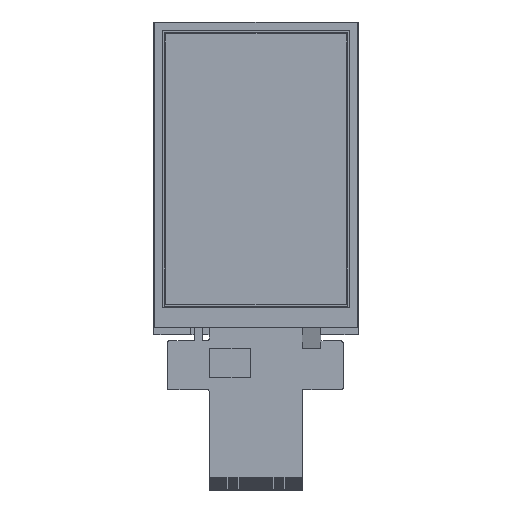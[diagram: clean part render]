
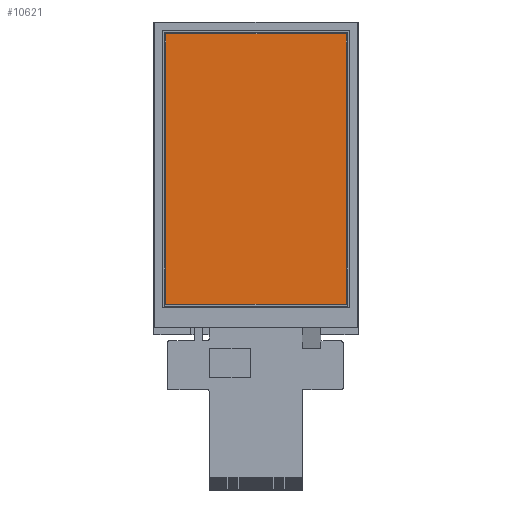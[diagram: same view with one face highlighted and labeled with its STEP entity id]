
A CAD part, top view. The second image highlights one B-rep face of the part: STEP entity #10621.
In plain terms, the highlighted planar face has unit normal (0, 0, 1).
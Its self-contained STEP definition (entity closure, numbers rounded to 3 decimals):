
#35 = VERTEX_POINT ( 'NONE', #1851 ) ;
#666 = ORIENTED_EDGE ( 'NONE', *, *, #3850, .F. ) ;
#753 = CARTESIAN_POINT ( 'NONE',  ( 3.27, -76.7, 3.7 ) ) ;
#893 = CARTESIAN_POINT ( 'NONE',  ( 0., 0., 3.7 ) ) ;
#1265 = ORIENTED_EDGE ( 'NONE', *, *, #1665, .F. ) ;
#1332 = VECTOR ( 'NONE', #6661, 1000. ) ;
#1665 = EDGE_CURVE ( 'NONE', #4494, #35, #13127, .T. ) ;
#1851 = CARTESIAN_POINT ( 'NONE',  ( 3.27, -3.26, 3.7 ) ) ;
#2079 = LINE ( 'NONE', #6763, #12390 ) ;
#2536 = EDGE_CURVE ( 'NONE', #8984, #6457, #3939, .T. ) ;
#3483 = DIRECTION ( 'NONE',  ( 1., 0., 0. ) ) ;
#3850 = EDGE_CURVE ( 'NONE', #35, #8984, #14012, .T. ) ;
#3939 = LINE ( 'NONE', #11310, #4604 ) ;
#4046 = FACE_OUTER_BOUND ( 'NONE', #5828, .T. ) ;
#4494 = VERTEX_POINT ( 'NONE', #753 ) ;
#4604 = VECTOR ( 'NONE', #8742, 1000. ) ;
#4918 = ORIENTED_EDGE ( 'NONE', *, *, #14478, .F. ) ;
#5771 = DIRECTION ( 'NONE',  ( 0., 1., 0. ) ) ;
#5828 = EDGE_LOOP ( 'NONE', ( #1265, #4918, #9481, #666 ) ) ;
#6457 = VERTEX_POINT ( 'NONE', #14137 ) ;
#6661 = DIRECTION ( 'NONE',  ( 1., 0., 0. ) ) ;
#6763 = CARTESIAN_POINT ( 'NONE',  ( 0., -76.7, 3.7 ) ) ;
#6827 = CARTESIAN_POINT ( 'NONE',  ( 0., -3.26, 3.7 ) ) ;
#7402 = VECTOR ( 'NONE', #5771, 1000. ) ;
#8742 = DIRECTION ( 'NONE',  ( 0., -1., 0. ) ) ;
#8984 = VERTEX_POINT ( 'NONE', #11177 ) ;
#9075 = PLANE ( 'NONE',  #15406 ) ;
#9378 = CARTESIAN_POINT ( 'NONE',  ( 3.27, 0., 3.7 ) ) ;
#9481 = ORIENTED_EDGE ( 'NONE', *, *, #2536, .F. ) ;
#10621 = ADVANCED_FACE ( 'NONE', ( #4046 ), #9075, .T. ) ;
#11177 = CARTESIAN_POINT ( 'NONE',  ( 52.23, -3.26, 3.7 ) ) ;
#11310 = CARTESIAN_POINT ( 'NONE',  ( 52.23, 0., 3.7 ) ) ;
#11674 = DIRECTION ( 'NONE',  ( -1., 0., 0. ) ) ;
#12390 = VECTOR ( 'NONE', #11674, 1000. ) ;
#13127 = LINE ( 'NONE', #9378, #7402 ) ;
#14012 = LINE ( 'NONE', #6827, #1332 ) ;
#14137 = CARTESIAN_POINT ( 'NONE',  ( 52.23, -76.7, 3.7 ) ) ;
#14433 = DIRECTION ( 'NONE',  ( 0., 0., 1. ) ) ;
#14478 = EDGE_CURVE ( 'NONE', #6457, #4494, #2079, .T. ) ;
#15406 = AXIS2_PLACEMENT_3D ( 'NONE', #893, #14433, #3483 ) ;
